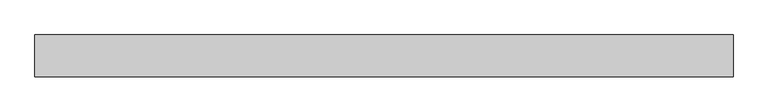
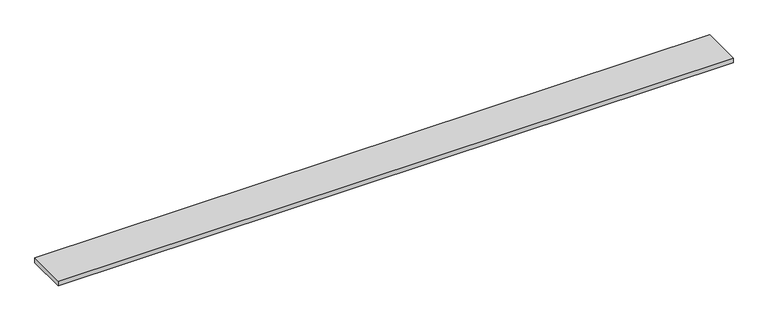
"""IFC4 building model written with IfcOpenShell, lengths in millimetres: proxy geometry, AK_アルミ足場板 AL-4_軽 : AK_アルミ足場板 AL-4_軽."""

from ifc_helpers import new_model, si_unit, origin, origin_with_axes, place, context, project, spatial, polyline, outline, extrude, source, transform, mapped, element, save


def generic_models_9fc35acb(model_context):
    return source(origin(), model_context, "Body", "SweptSolid", [
        extrude(outline(polyline([(4000.120996, 240.0), (4000.120996, 0.0157988), (0.0, 0.0157988), (0.0, 240.0), (4000.120996, 240.0)])), origin_with_axes(), (0.0, 0.0, 1.0), 29.0),
    ])


if __name__ == "__main__":
    model = new_model("IFC4")
    model_context = context("Model", 3, world=origin())
    ifc_project = project(units=[si_unit("LENGTHUNIT", "METRE", prefix="MILLI")], contexts=[model_context])
    site = spatial("IfcSite", under=ifc_project)
    building = spatial("IfcBuilding", under=site)
    placement = place(None, origin())
    generic_models_shape = generic_models_9fc35acb(model_context)
    element("IfcBuildingElementProxy", 1, Name="AK_アルミ足場板 AL-4_軽 : AK_アルミ足場板 AL-4_軽", ObjectType="AK_アルミ足場板 AL-4_軽 : AK_アルミ足場板 AL-4_軽", at=placement, inside=building, context=model_context, shape_type="MappedRepresentation", body=[
        mapped(generic_models_shape, transform((0.0, 0.0, 0.0), x_axis=(1.0, 0.0, 0.0), y_axis=(0.0, 1.0, 0.0), z_axis=(0.0, 0.0, 1.0))),
    ])
    save(model, "model.ifc")
